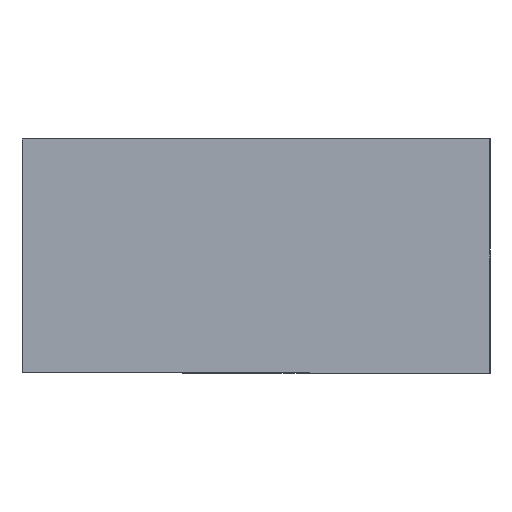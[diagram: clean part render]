
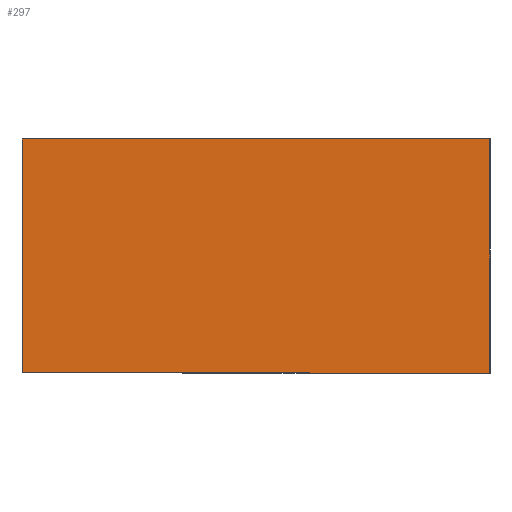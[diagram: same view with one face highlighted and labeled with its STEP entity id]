
A CAD part, left-side view. The second image highlights one B-rep face of the part: STEP entity #297.
In plain terms, the highlighted planar face has unit normal (-1, 0, 0).
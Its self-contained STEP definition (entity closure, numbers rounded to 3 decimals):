
#5 = FACE_OUTER_BOUND ( 'NONE', #225, .T. ) ;
#18 = DIRECTION ( 'NONE',  ( 0., -1., 0. ) ) ;
#46 = CARTESIAN_POINT ( 'NONE',  ( -250., -24., 24. ) ) ;
#54 = DIRECTION ( 'NONE',  ( 0., 0., -1. ) ) ;
#77 = LINE ( 'NONE', #259, #217 ) ;
#92 = CARTESIAN_POINT ( 'NONE',  ( -250., -24., 0. ) ) ;
#94 = CARTESIAN_POINT ( 'NONE',  ( -250., 24., 24. ) ) ;
#99 = DIRECTION ( 'NONE',  ( 0., 0., -1. ) ) ;
#100 = CARTESIAN_POINT ( 'NONE',  ( -250., -24., 24. ) ) ;
#104 = CARTESIAN_POINT ( 'NONE',  ( -250., -24., 24. ) ) ;
#116 = VERTEX_POINT ( 'NONE', #94 ) ;
#128 = AXIS2_PLACEMENT_3D ( 'NONE', #100, #214, #159 ) ;
#130 = PLANE ( 'NONE',  #128 ) ;
#132 = CARTESIAN_POINT ( 'NONE',  ( -250., -24., 24. ) ) ;
#135 = VERTEX_POINT ( 'NONE', #172 ) ;
#145 = VERTEX_POINT ( 'NONE', #276 ) ;
#159 = DIRECTION ( 'NONE',  ( 0., 0., -1. ) ) ;
#160 = VECTOR ( 'NONE', #18, 1000. ) ;
#163 = ORIENTED_EDGE ( 'NONE', *, *, #173, .T. ) ;
#166 = VECTOR ( 'NONE', #99, 1000. ) ;
#172 = CARTESIAN_POINT ( 'NONE',  ( -250., 24., 0. ) ) ;
#173 = EDGE_CURVE ( 'NONE', #135, #145, #228, .T. ) ;
#178 = EDGE_CURVE ( 'NONE', #116, #273, #307, .T. ) ;
#193 = ORIENTED_EDGE ( 'NONE', *, *, #178, .F. ) ;
#201 = EDGE_CURVE ( 'NONE', #273, #145, #260, .T. ) ;
#202 = DIRECTION ( 'NONE',  ( 0., -1., 0. ) ) ;
#214 = DIRECTION ( 'NONE',  ( 1., 0., 0. ) ) ;
#217 = VECTOR ( 'NONE', #54, 1000. ) ;
#225 = EDGE_LOOP ( 'NONE', ( #163, #327, #193, #269 ) ) ;
#228 = LINE ( 'NONE', #92, #277 ) ;
#259 = CARTESIAN_POINT ( 'NONE',  ( -250., 24., 24. ) ) ;
#260 = LINE ( 'NONE', #104, #166 ) ;
#269 = ORIENTED_EDGE ( 'NONE', *, *, #321, .T. ) ;
#273 = VERTEX_POINT ( 'NONE', #132 ) ;
#276 = CARTESIAN_POINT ( 'NONE',  ( -250., -24., 0. ) ) ;
#277 = VECTOR ( 'NONE', #202, 1000. ) ;
#297 = ADVANCED_FACE ( 'NONE', ( #5 ), #130, .F. ) ;
#307 = LINE ( 'NONE', #46, #160 ) ;
#321 = EDGE_CURVE ( 'NONE', #116, #135, #77, .T. ) ;
#327 = ORIENTED_EDGE ( 'NONE', *, *, #201, .F. ) ;
